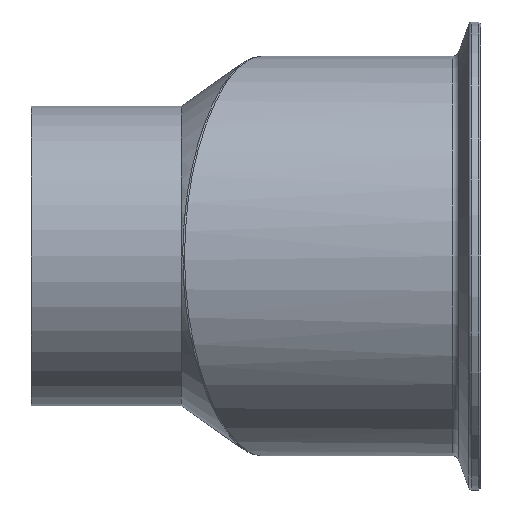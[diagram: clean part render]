
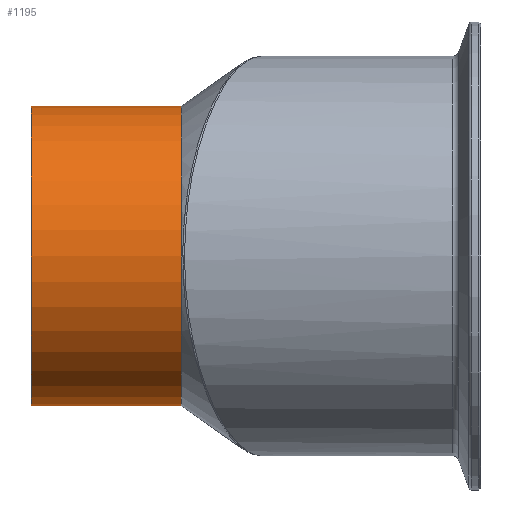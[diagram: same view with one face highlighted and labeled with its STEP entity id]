
A CAD part, front view. The second image highlights one B-rep face of the part: STEP entity #1195.
In plain terms, the highlighted cylindrical face has radius 38.1 mm (diameter 76.2 mm), a partial arc.
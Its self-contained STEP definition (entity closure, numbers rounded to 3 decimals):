
#13 = CARTESIAN_POINT ( 'NONE',  ( -57.15, -12.251, 0. ) ) ;
#37 = EDGE_CURVE ( 'NONE', #1189, #729, #140, .T. ) ;
#135 = EDGE_LOOP ( 'NONE', ( #356, #214, #944, #302 ) ) ;
#140 = LINE ( 'NONE', #1991, #407 ) ;
#148 = VECTOR ( 'NONE', #1757, 1000. ) ;
#214 = ORIENTED_EDGE ( 'NONE', *, *, #570, .T. ) ;
#302 = ORIENTED_EDGE ( 'NONE', *, *, #1194, .F. ) ;
#356 = ORIENTED_EDGE ( 'NONE', *, *, #37, .F. ) ;
#407 = VECTOR ( 'NONE', #1685, 1000. ) ;
#417 = AXIS2_PLACEMENT_3D ( 'NONE', #640, #642, #647 ) ;
#561 = CARTESIAN_POINT ( 'NONE',  ( -57.15, -12.251, 38.1 ) ) ;
#570 = EDGE_CURVE ( 'NONE', #1189, #1217, #1046, .T. ) ;
#619 = DIRECTION ( 'NONE',  ( 1., 0., 0. ) ) ;
#620 = DIRECTION ( 'NONE',  ( 0., 0., -1. ) ) ;
#637 = CARTESIAN_POINT ( 'NONE',  ( 5.086, -12.251, 0. ) ) ;
#640 = CARTESIAN_POINT ( 'NONE',  ( -19.05, -12.251, 0. ) ) ;
#642 = DIRECTION ( 'NONE',  ( 1., 0., 0. ) ) ;
#647 = DIRECTION ( 'NONE',  ( 0., 0., -1. ) ) ;
#692 = CARTESIAN_POINT ( 'NONE',  ( -57.15, -12.251, -38.1 ) ) ;
#729 = VERTEX_POINT ( 'NONE', #1417 ) ;
#736 = CARTESIAN_POINT ( 'NONE',  ( -19.05, -12.251, -38.1 ) ) ;
#739 = AXIS2_PLACEMENT_3D ( 'NONE', #637, #619, #620 ) ;
#860 = FACE_OUTER_BOUND ( 'NONE', #135, .T. ) ;
#944 = ORIENTED_EDGE ( 'NONE', *, *, #1831, .T. ) ;
#1046 = CIRCLE ( 'NONE', #1639, 38.1 ) ;
#1189 = VERTEX_POINT ( 'NONE', #561 ) ;
#1194 = EDGE_CURVE ( 'NONE', #729, #1651, #1264, .T. ) ;
#1195 = ADVANCED_FACE ( 'NONE', ( #860 ), #2084, .T. ) ;
#1217 = VERTEX_POINT ( 'NONE', #692 ) ;
#1264 = CIRCLE ( 'NONE', #417, 38.1 ) ;
#1322 = DIRECTION ( 'NONE',  ( 1., 0., 0. ) ) ;
#1417 = CARTESIAN_POINT ( 'NONE',  ( -19.05, -12.251, 38.1 ) ) ;
#1639 = AXIS2_PLACEMENT_3D ( 'NONE', #13, #1322, #1672 ) ;
#1651 = VERTEX_POINT ( 'NONE', #736 ) ;
#1672 = DIRECTION ( 'NONE',  ( 0., 0., -1. ) ) ;
#1685 = DIRECTION ( 'NONE',  ( 1., 0., 0. ) ) ;
#1757 = DIRECTION ( 'NONE',  ( 1., 0., 0. ) ) ;
#1766 = CARTESIAN_POINT ( 'NONE',  ( 5.086, -12.251, -38.1 ) ) ;
#1797 = LINE ( 'NONE', #1766, #148 ) ;
#1831 = EDGE_CURVE ( 'NONE', #1217, #1651, #1797, .T. ) ;
#1991 = CARTESIAN_POINT ( 'NONE',  ( 5.086, -12.251, 38.1 ) ) ;
#2084 = CYLINDRICAL_SURFACE ( 'NONE', #739, 38.1 ) ;
